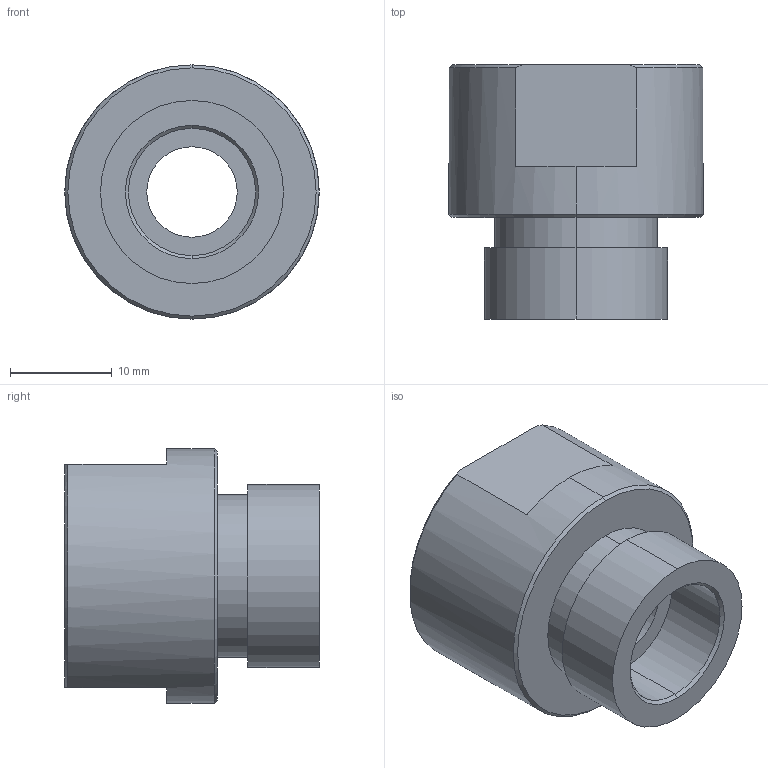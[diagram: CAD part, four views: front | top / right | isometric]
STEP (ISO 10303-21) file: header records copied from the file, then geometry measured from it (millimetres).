
FILE_DESCRIPTION (( 'STEP AP203' ), '1' );
FILE_NAME ('125MO-8.9.STEP', '2022-04-13T07:07:06', ( '' ), ( '' ), 'SwSTEP 2.0', 'SolidWorks 2015', '' );
FILE_SCHEMA (( 'CONFIG_CONTROL_DESIGN' ));
Length unit declared in the file: millimetre
Products named in the file (2): 125MO-8.9
Bounding box: 25 x 25 x 25 mm (x, y, z)
Volume: 7520.5 mm3; surface area: 3426.6 mm2
Topology: 1 solids, 1 shells, 25 faces, 56 edges, 36 vertices
Faces by surface type: cylinder 10, plane 9, cone 6
Entity records: 871 total; most frequent: DIRECTION 136, CARTESIAN_POINT 131, ORIENTED_EDGE 112, AXIS2_PLACEMENT_3D 57, EDGE_CURVE 56, VERTEX_POINT 36, EDGE_LOOP 30, CIRCLE 30
